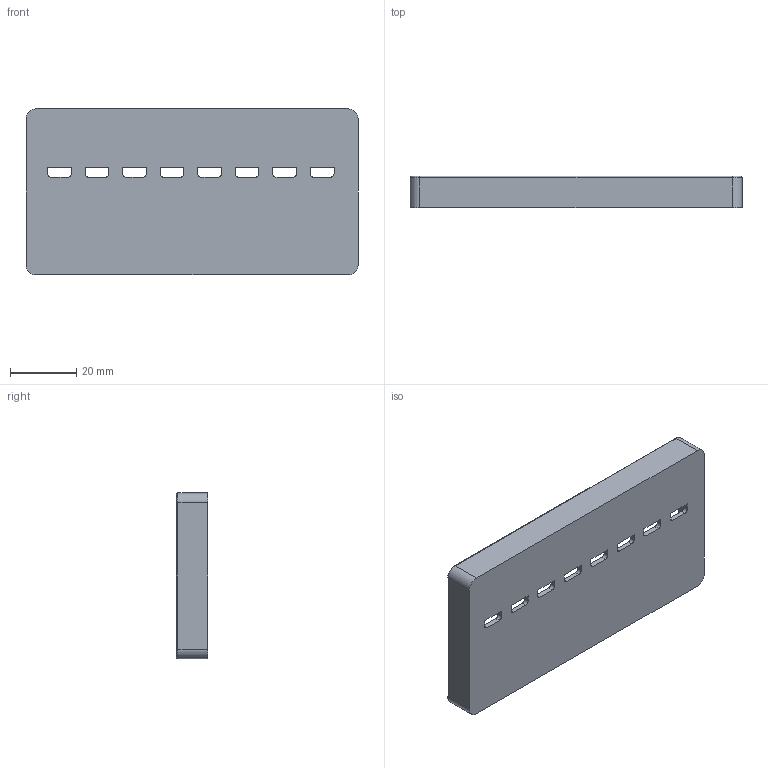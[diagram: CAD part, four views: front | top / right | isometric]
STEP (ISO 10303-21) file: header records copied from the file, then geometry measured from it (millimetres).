
FILE_DESCRIPTION (( 'STEP AP214' ), '1' );
FILE_NAME ('drillbitbox_drawer.STEP', '2014-10-12T04:17:49', ( 'Frank' ), ( '' ), 'SwSTEP 2.0', 'SolidWorks 2013', '' );
FILE_SCHEMA (( 'AUTOMOTIVE_DESIGN' ));
Length unit declared in the file: millimetre
Products named in the file (1): drillbitbox_drawer
Bounding box: 100 x 9.5 x 50 mm (x, y, z)
Volume: 12015.9 mm3; surface area: 16343.3 mm2
Topology: 1 solids, 1 shells, 171 faces, 464 edges, 296 vertices
Faces by surface type: plane 123, cylinder 44, torus 4
Entity records: 5378 total; most frequent: CARTESIAN_POINT 932, ORIENTED_EDGE 928, DIRECTION 900, EDGE_CURVE 464, LINE 372, VECTOR 372, VERTEX_POINT 296, AXIS2_PLACEMENT_3D 264
